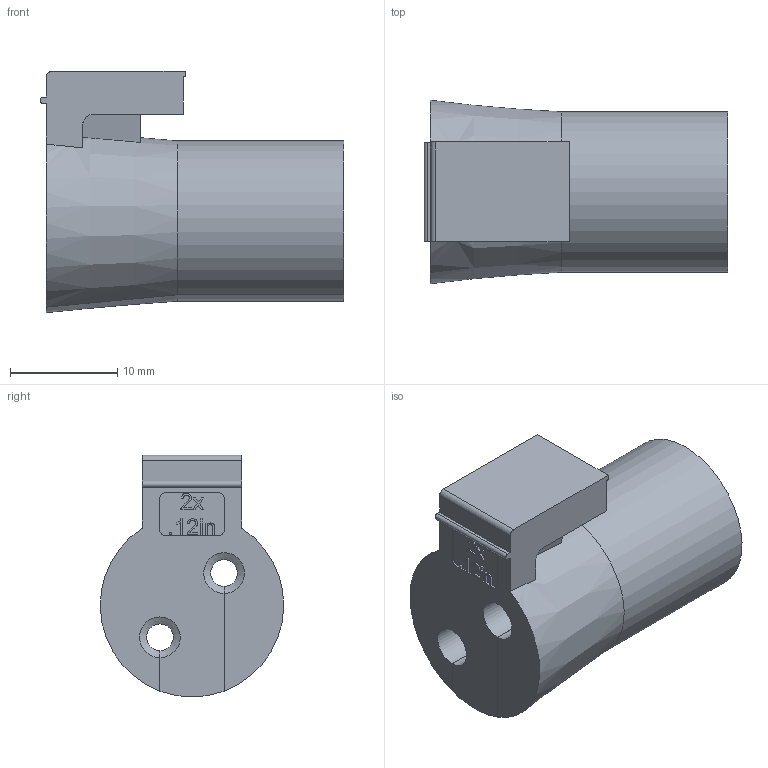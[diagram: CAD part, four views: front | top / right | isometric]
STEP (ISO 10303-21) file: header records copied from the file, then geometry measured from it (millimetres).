
FILE_DESCRIPTION(/* description */ (''),/* implementation_level */ '2;1');
FILE_NAME(/* name */ 'H:\SapWorkDir\Inventor\MP1\ConvertTempPath\87_12_121332_00_A_220525_KDT-X 2x3.stp',/* time_stamp */ '2022-05-25T11:04:56+02:00',/* author */ ('BAUER'),/* organization */ (''),/* preprocessor_version */ 'ST-DEVELOPER v16.13',/* originating_system */ 'Autodesk Inventor 2018',/* authorisation */ '');
FILE_SCHEMA (('AUTOMOTIVE_DESIGN { 1 0 10303 214 3 1 1 }'));
Length unit declared in the file: millimetre
Products named in the file (1): 121332
Bounding box: 28.4 x 17.14 x 22.55 mm (x, y, z)
Volume: 5217.6 mm3; surface area: 3363.4 mm2
Topology: 1 solids, 1 shells, 130 faces, 359 edges, 240 vertices
Faces by surface type: plane 80, bspline 27, cylinder 17, cone 6
Entity records: 4314 total; most frequent: CARTESIAN_POINT 1089, ORIENTED_EDGE 718, DIRECTION 547, EDGE_CURVE 359, LINE 255, VECTOR 255, VERTEX_POINT 240, AXIS2_PLACEMENT_3D 146
